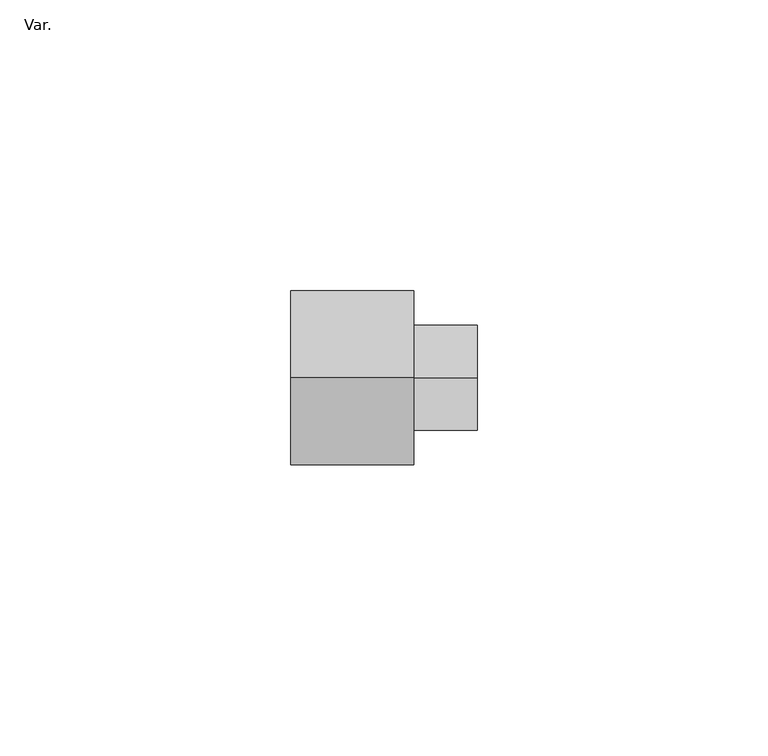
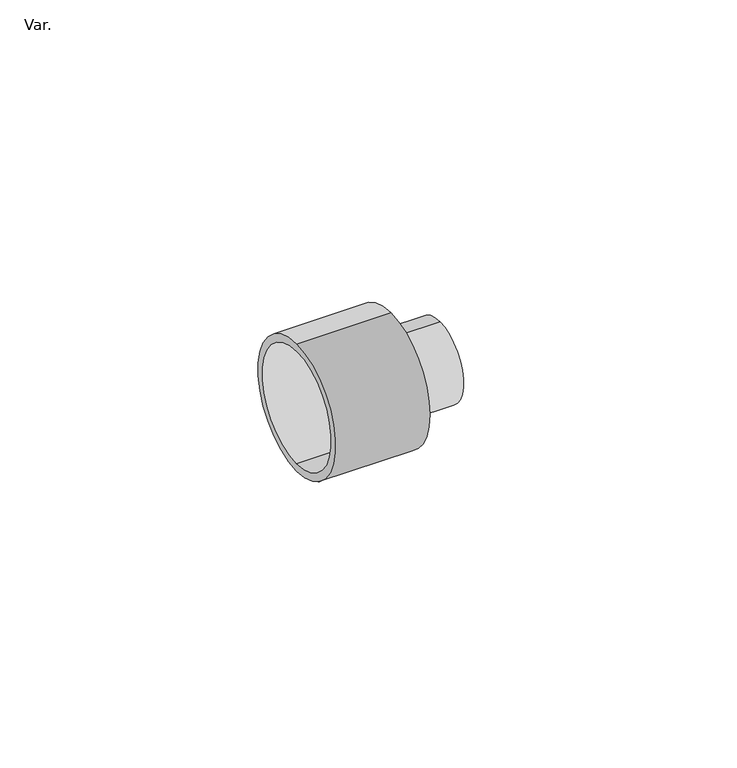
"""IFC4 building model written with IfcOpenShell, lengths in millimetres: pipe fitting geometry, AmancoWavin_ConexõesdeTubos_K5ZNãoUsarConectorMódulodeDistribuição : Var.."""

from ifc_helpers import new_model, si_unit, point, frame, origin, origin_2d, place, context, project, spatial, polyline, circle_curve, trimmed, segment, composite_curve, outline, extrude, source, transform, mapped, element, save
from ifc_brep_helpers import plane_surface, cylinder_surface, revolved_surface, advanced_brep


def var_d158d0bf(model_context):
    return source(origin(), model_context, "Body", "SolidModel", [
        extrude(outline(composite_curve([segment(trimmed(circle_curve(origin_2d(), 9.1), [point((0.0, -9.1))], [point((0.0, 9.1))], False, "CARTESIAN"), True, "CONTINUOUS"), segment(trimmed(circle_curve(origin_2d(), 9.1), [point((0.0, 9.1))], [point((0.0, -9.1))], False, "CARTESIAN"), True, "CONTINUOUS")], self_intersect=False)), frame((-18.0, 0.0, 0.0), z_axis=(1.0, 0.0, 0.0), x_axis=(0.0, 1.0, 0.0)), (0.0, 0.0, 1.0), 18.0),
        advanced_brep(
        [(-32.0, 0.0, -15.0), (-32.0, 0.0, 15.0), (-32.0, 0.0, 13.25), (-32.0, 0.0, -13.25), (-10.9146243, 0.0, -15.0), (-10.9146243, 0.0, 15.0), (-18.0, 0.0, 13.25), (-18.0, 0.0, -13.25)],
        [
            (0, 1, circle_curve(frame((-32.0, 0.0, 0.0), z_axis=(-1.0, 0.0, 0.0), x_axis=(0.0, 0.0, 1.0)), 15.0)),
            (1, 0, circle_curve(frame((-32.0, 0.0, 0.0), z_axis=(-1.0, 0.0, 0.0), x_axis=(0.0, 0.0, 1.0)), 15.0)),
            (2, 3, circle_curve(frame((-32.0, 0.0, 0.0), z_axis=(1.0, 0.0, 0.0), x_axis=(0.0, 0.0, -1.0)), 13.25)),
            (3, 2, circle_curve(frame((-32.0, 0.0, 0.0), z_axis=(1.0, 0.0, 0.0), x_axis=(0.0, 0.0, -1.0)), 13.25)),
            (4, 5, circle_curve(frame((-10.9146243, 0.0, 0.0), z_axis=(1.0, 0.0, 0.0), x_axis=(0.0, 0.0, 1.0)), 15.0)),
            (5, 4, circle_curve(frame((-10.9146243, 0.0, 0.0), z_axis=(1.0, 0.0, 0.0), x_axis=(0.0, 0.0, 1.0)), 15.0)),
            (0, 4),
            (5, 1),
            (6, 7, circle_curve(frame((-18.0, 0.0, 0.0), z_axis=(-1.0, 0.0, 0.0), x_axis=(0.0, 0.0, -1.0)), 13.25)),
            (7, 6, circle_curve(frame((-18.0, 0.0, 0.0), z_axis=(-1.0, 0.0, 0.0), x_axis=(0.0, 0.0, -1.0)), 13.25)),
            (7, 3),
            (2, 6),
        ],
        [
            plane_surface(frame((-32.0, 0.0, 15.0), z_axis=(-1.0, 0.0, 0.0), x_axis=(0.0, 1.0, 0.0))),
            plane_surface(frame((-10.9146243, 0.0, 15.0), z_axis=(1.0, 0.0, 0.0), x_axis=(0.0, -1.0, 0.0))),
            cylinder_surface(frame((-10.9146243, 0.0, 0.0), z_axis=(-1.0, 0.0, 0.0), x_axis=(0.0, 0.0, 1.0)), 15.0),
            plane_surface(frame((-18.0, 0.0, -13.25), z_axis=(-1.0, 0.0, 0.0), x_axis=(0.0, 1.0, 0.0))),
            revolved_surface(polyline([(-18.0, 0.0, -13.25), (-32.0, 0.0, -13.25)]), (-32.0, 0.0, 0.0), (1.0, 0.0, 0.0)),
        ],
        [
            (0, [[1, 2], [3, 4]]),
            (1, [[5, 6]]),
            (2, [[-1, 7, -6, 8]]),
            (2, [[-2, -8, -5, -7]]),
            (3, [[9, 10]]),
            (4, [[-10, 11, -3, 12]]),
            (4, [[-9, -12, -4, -11]]),
        ],
    ),
    ])


if __name__ == "__main__":
    model = new_model("IFC4")
    model_context = context("Model", 3, world=origin())
    ifc_project = project(units=[si_unit("LENGTHUNIT", "METRE", prefix="MILLI")], contexts=[model_context])
    site = spatial("IfcSite", under=ifc_project)
    building = spatial("IfcBuilding", under=site)
    placement = place(None, origin())
    var_shape = var_d158d0bf(model_context)
    element("IfcPipeFitting", 1, ObjectType="AmancoWavin_ConexõesdeTubos_K5ZNãoUsarConectorMódulodeDistribuição : Var.", at=placement, inside=building, context=model_context, shape_type="MappedRepresentation", body=[
        mapped(var_shape, transform((0.0, 0.0, 0.0), x_axis=(1.0, 0.0, 0.0), y_axis=(0.0, 1.0, 0.0), z_axis=(0.0, 0.0, 1.0))),
    ])
    save(model, "model.ifc")
